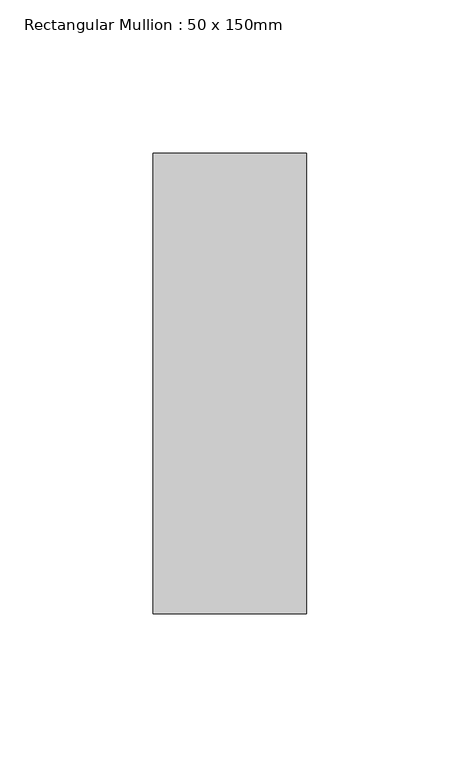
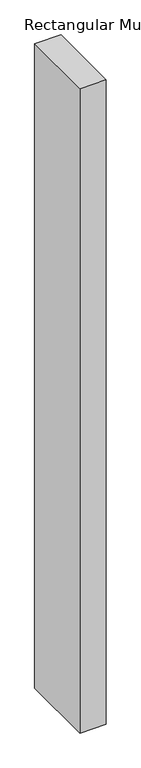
"""IFC4 building model written with IfcOpenShell, lengths in millimetres: member geometry, Rectangular Mullion : 50 x 150mm."""

from ifc_helpers import new_model, si_unit, frame, origin, place, context, project, spatial, polyline, outline, extrude, source, transform, mapped, element, save


def rectangular_mullion_50_x_150mm_b8eab333(model_context):
    return source(origin(), model_context, "Body", "SweptSolid", [
        extrude(outline(polyline([(0.0, 75.0), (0.0, -75.0), (-50.0, -75.0), (-50.0, 75.0), (0.0, 75.0)])), frame((0.0, 0.0, -1300.9787904), z_axis=(0.0, 0.0, 1.0), x_axis=(1.0, 0.0, 0.0)), (0.0, 0.0, 1.0), 1300.9787904),
    ])


if __name__ == "__main__":
    model = new_model("IFC4")
    model_context = context("Model", 3, world=origin())
    ifc_project = project(units=[si_unit("LENGTHUNIT", "METRE", prefix="MILLI")], contexts=[model_context])
    site = spatial("IfcSite", under=ifc_project)
    building = spatial("IfcBuilding", under=site)
    placement = place(None, origin())
    rectangular_mullion_50_x_150mm_shape = rectangular_mullion_50_x_150mm_b8eab333(model_context)
    element("IfcMember", 1, ObjectType="Rectangular Mullion : 50 x 150mm", at=placement, inside=building, context=model_context, shape_type="MappedRepresentation", body=[
        mapped(rectangular_mullion_50_x_150mm_shape, transform((0.0, 0.0, 0.0), x_axis=(1.0, 0.0, 0.0), y_axis=(0.0, 1.0, 0.0), z_axis=(0.0, 0.0, 1.0))),
    ])
    save(model, "model.ifc")
